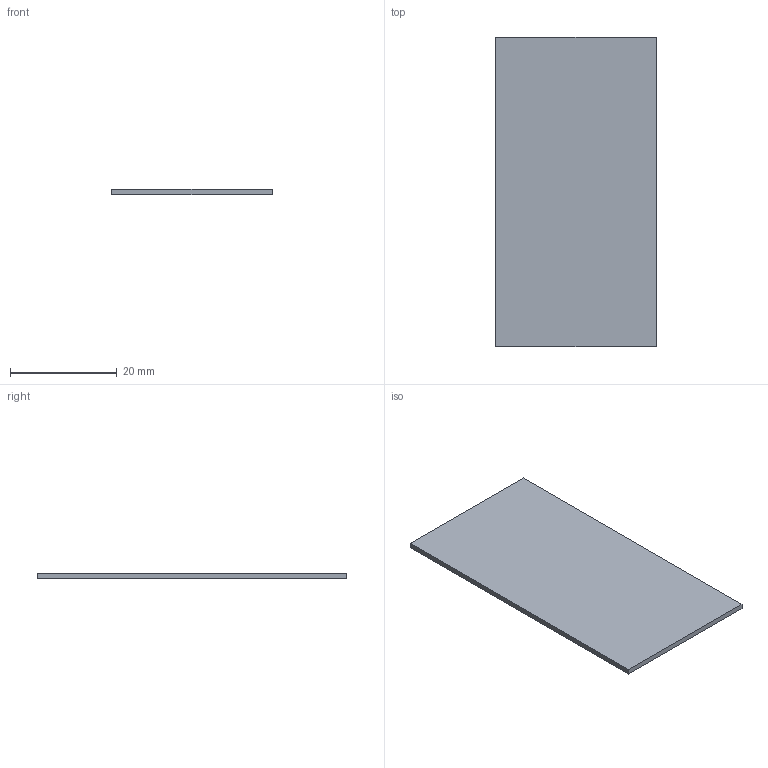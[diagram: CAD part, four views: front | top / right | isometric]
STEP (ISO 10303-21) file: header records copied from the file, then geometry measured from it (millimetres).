
FILE_DESCRIPTION(('Open CASCADE Model'),'2;1');
FILE_NAME('Open CASCADE Shape Model','2026-10-04T02:31:35',('Author'),( 'Open CASCADE'),'Open CASCADE STEP processor 8.0','Open CASCADE 8.0' ,'Unknown');
FILE_SCHEMA(('AUTOMOTIVE_DESIGN { 1 0 10303 214 1 1 1 1 }'));
Length unit declared in the file: millimetre
Products named in the file (1): Open CASCADE STEP translator 8.0 63
Bounding box: 30 x 58 x 1 mm (x, y, z)
Volume: 1740 mm3; surface area: 3656 mm2
Topology: 1 solids, 1 shells, 6 faces, 12 edges, 8 vertices
Faces by surface type: plane 6
Entity records: 322 total; most frequent: CARTESIAN_POINT 51, DIRECTION 50, LINE 36, VECTOR 36, ORIENTED_EDGE 24, PCURVE 24, DEFINITIONAL_REPRESENTATION 24, EDGE_CURVE 12
